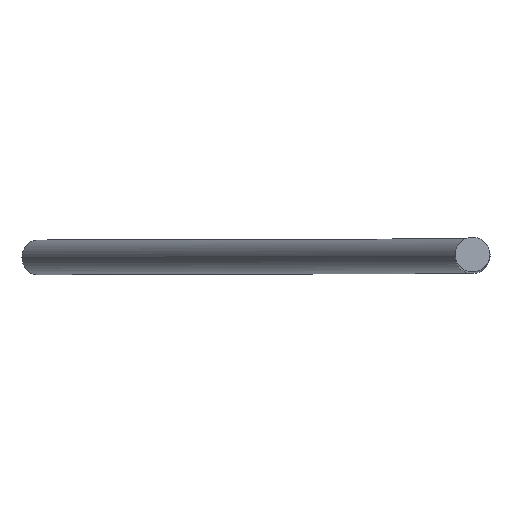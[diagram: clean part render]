
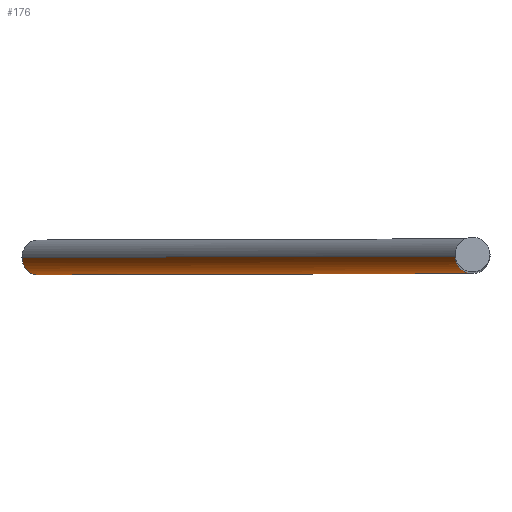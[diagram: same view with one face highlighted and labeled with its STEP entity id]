
A CAD part, top view. The second image highlights one B-rep face of the part: STEP entity #176.
In plain terms, the highlighted cylindrical face has radius 2 mm (diameter 4 mm), a partial arc.
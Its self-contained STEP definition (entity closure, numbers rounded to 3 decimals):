
#4 = AXIS2_PLACEMENT_3D ( 'NONE', #36, #124, #110 ) ;
#6 = CARTESIAN_POINT ( 'NONE',  ( 1.732, 0., -105. ) ) ;
#8 = EDGE_CURVE ( 'NONE', #158, #15, #163, .T. ) ;
#15 = VERTEX_POINT ( 'NONE', #70 ) ;
#22 = VERTEX_POINT ( 'NONE', #37 ) ;
#25 = CARTESIAN_POINT ( 'NONE',  ( -48.268, 0., -191.603 ) ) ;
#29 = ORIENTED_EDGE ( 'NONE', *, *, #152, .F. ) ;
#31 = EDGE_CURVE ( 'NONE', #22, #15, #184, .T. ) ;
#32 = LINE ( 'NONE', #6, #121 ) ;
#36 = CARTESIAN_POINT ( 'NONE',  ( -50., 0., -190.603 ) ) ;
#37 = CARTESIAN_POINT ( 'NONE',  ( -2., 0., -103.464 ) ) ;
#49 = EDGE_LOOP ( 'NONE', ( #56, #29, #161, #51 ) ) ;
#50 = AXIS2_PLACEMENT_3D ( 'NONE', #145, #188, #87 ) ;
#51 = ORIENTED_EDGE ( 'NONE', *, *, #8, .F. ) ;
#56 = ORIENTED_EDGE ( 'NONE', *, *, #107, .F. ) ;
#58 = FACE_OUTER_BOUND ( 'NONE', #49, .T. ) ;
#60 = CARTESIAN_POINT ( 'NONE',  ( 2., 0., -104.536 ) ) ;
#65 = CYLINDRICAL_SURFACE ( 'NONE', #50, 2. ) ;
#70 = CARTESIAN_POINT ( 'NONE',  ( -51.732, 0., -189.603 ) ) ;
#76 = VECTOR ( 'NONE', #167, 1000. ) ;
#87 = DIRECTION ( 'NONE',  ( -0.866, 0., 0.5 ) ) ;
#107 = EDGE_CURVE ( 'NONE', #136, #158, #32, .T. ) ;
#110 = DIRECTION ( 'NONE',  ( -0.866, 0., 0.5 ) ) ;
#121 = VECTOR ( 'NONE', #126, 1000. ) ;
#124 = DIRECTION ( 'NONE',  ( -0.5, 0., -0.866 ) ) ;
#126 = DIRECTION ( 'NONE',  ( -0.5, 0., -0.866 ) ) ;
#130 = CARTESIAN_POINT ( 'NONE',  ( -2., 0., -103.464 ) ) ;
#136 = VERTEX_POINT ( 'NONE', #60 ) ;
#138 =( BOUNDED_CURVE ( )  B_SPLINE_CURVE ( 3, ( #130, #155, #154, #186 ),
 .UNSPECIFIED., .F., .F. ) 
 B_SPLINE_CURVE_WITH_KNOTS ( ( 4, 4 ),
 ( 0., 3.142 ),
 .UNSPECIFIED. ) 
 CURVE ( )  GEOMETRIC_REPRESENTATION_ITEM ( )  RATIONAL_B_SPLINE_CURVE ( ( 1., 0.333, 0.333, 1. ) ) 
 REPRESENTATION_ITEM ( '' )  );
#140 = CARTESIAN_POINT ( 'NONE',  ( -1.732, 0., -103. ) ) ;
#145 = CARTESIAN_POINT ( 'NONE',  ( 0., 0., -104. ) ) ;
#152 = EDGE_CURVE ( 'NONE', #22, #136, #138, .T. ) ;
#154 = CARTESIAN_POINT ( 'NONE',  ( 2., -4., -104.536 ) ) ;
#155 = CARTESIAN_POINT ( 'NONE',  ( -2., -4., -103.464 ) ) ;
#158 = VERTEX_POINT ( 'NONE', #25 ) ;
#161 = ORIENTED_EDGE ( 'NONE', *, *, #31, .T. ) ;
#163 = CIRCLE ( 'NONE', #4, 2. ) ;
#167 = DIRECTION ( 'NONE',  ( -0.5, 0., -0.866 ) ) ;
#176 = ADVANCED_FACE ( 'NONE', ( #58 ), #65, .T. ) ;
#184 = LINE ( 'NONE', #140, #76 ) ;
#186 = CARTESIAN_POINT ( 'NONE',  ( 2., 0., -104.536 ) ) ;
#188 = DIRECTION ( 'NONE',  ( -0.5, 0., -0.866 ) ) ;
